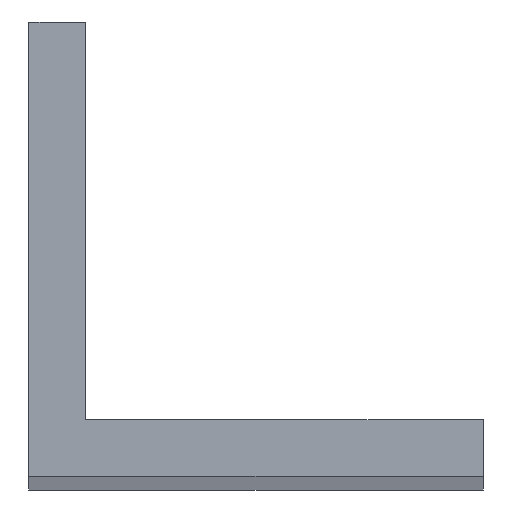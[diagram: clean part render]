
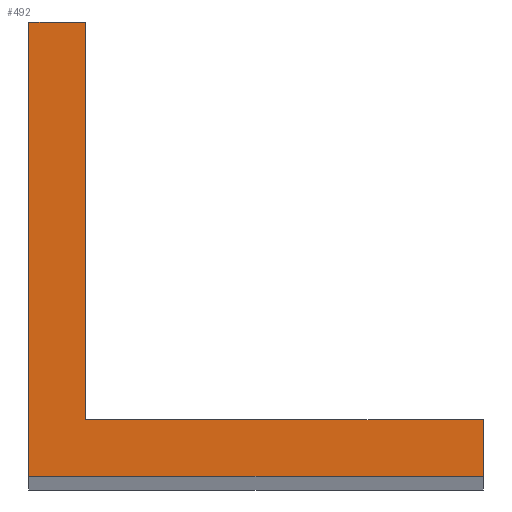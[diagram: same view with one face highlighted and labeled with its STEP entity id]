
A CAD part, top view. The second image highlights one B-rep face of the part: STEP entity #492.
In plain terms, the highlighted planar face has unit normal (0, 0, 1).
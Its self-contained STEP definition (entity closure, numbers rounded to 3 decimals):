
#24 = VERTEX_POINT('',#25);
#25 = CARTESIAN_POINT('',(1743.,0.,3288.));
#32 = PLANE('',#33);
#33 = AXIS2_PLACEMENT_3D('',#34,#35,#36);
#34 = CARTESIAN_POINT('',(1743.,0.,2410.));
#35 = DIRECTION('',(0.,1.,0.));
#36 = DIRECTION('',(1.,0.,0.));
#44 = PLANE('',#45);
#45 = AXIS2_PLACEMENT_3D('',#46,#47,#48);
#46 = CARTESIAN_POINT('',(1743.,50.8,2410.));
#47 = DIRECTION('',(1.,0.,-0.));
#48 = DIRECTION('',(0.,-1.,0.));
#56 = EDGE_CURVE('',#24,#57,#59,.T.);
#57 = VERTEX_POINT('',#58);
#58 = CARTESIAN_POINT('',(1793.8,0.,3288.));
#59 = SURFACE_CURVE('',#60,(#64,#71),.PCURVE_S1.);
#60 = LINE('',#61,#62);
#61 = CARTESIAN_POINT('',(1743.,0.,3288.));
#62 = VECTOR('',#63,1.);
#63 = DIRECTION('',(1.,0.,0.));
#64 = PCURVE('',#32,#65);
#65 = DEFINITIONAL_REPRESENTATION('',(#66),#70);
#66 = LINE('',#67,#68);
#67 = CARTESIAN_POINT('',(0.,-878.));
#68 = VECTOR('',#69,1.);
#69 = DIRECTION('',(1.,0.));
#70 = ( GEOMETRIC_REPRESENTATION_CONTEXT(2) 
PARAMETRIC_REPRESENTATION_CONTEXT() REPRESENTATION_CONTEXT('2D SPACE',''
  ) );
#71 = PCURVE('',#72,#77);
#72 = PLANE('',#73);
#73 = AXIS2_PLACEMENT_3D('',#74,#75,#76);
#74 = CARTESIAN_POINT('',(1758.677,15.677,3288.));
#75 = DIRECTION('',(0.,0.,1.));
#76 = DIRECTION('',(1.,0.,-0.));
#77 = DEFINITIONAL_REPRESENTATION('',(#78),#82);
#78 = LINE('',#79,#80);
#79 = CARTESIAN_POINT('',(-15.677,-15.677));
#80 = VECTOR('',#81,1.);
#81 = DIRECTION('',(1.,0.));
#82 = ( GEOMETRIC_REPRESENTATION_CONTEXT(2) 
PARAMETRIC_REPRESENTATION_CONTEXT() REPRESENTATION_CONTEXT('2D SPACE',''
  ) );
#100 = PLANE('',#101);
#101 = AXIS2_PLACEMENT_3D('',#102,#103,#104);
#102 = CARTESIAN_POINT('',(1793.8,0.,2410.));
#103 = DIRECTION('',(-1.,0.,0.));
#104 = DIRECTION('',(0.,1.,0.));
#142 = EDGE_CURVE('',#57,#143,#145,.T.);
#143 = VERTEX_POINT('',#144);
#144 = CARTESIAN_POINT('',(1793.8,6.35,3288.));
#145 = SURFACE_CURVE('',#146,(#150,#157),.PCURVE_S1.);
#146 = LINE('',#147,#148);
#147 = CARTESIAN_POINT('',(1793.8,0.,3288.));
#148 = VECTOR('',#149,1.);
#149 = DIRECTION('',(0.,1.,0.));
#150 = PCURVE('',#100,#151);
#151 = DEFINITIONAL_REPRESENTATION('',(#152),#156);
#152 = LINE('',#153,#154);
#153 = CARTESIAN_POINT('',(0.,-878.));
#154 = VECTOR('',#155,1.);
#155 = DIRECTION('',(1.,0.));
#156 = ( GEOMETRIC_REPRESENTATION_CONTEXT(2) 
PARAMETRIC_REPRESENTATION_CONTEXT() REPRESENTATION_CONTEXT('2D SPACE',''
  ) );
#157 = PCURVE('',#72,#158);
#158 = DEFINITIONAL_REPRESENTATION('',(#159),#163);
#159 = LINE('',#160,#161);
#160 = CARTESIAN_POINT('',(35.123,-15.677));
#161 = VECTOR('',#162,1.);
#162 = DIRECTION('',(0.,1.));
#163 = ( GEOMETRIC_REPRESENTATION_CONTEXT(2) 
PARAMETRIC_REPRESENTATION_CONTEXT() REPRESENTATION_CONTEXT('2D SPACE',''
  ) );
#181 = PLANE('',#182);
#182 = AXIS2_PLACEMENT_3D('',#183,#184,#185);
#183 = CARTESIAN_POINT('',(1793.8,6.35,2410.));
#184 = DIRECTION('',(0.,-1.,0.));
#185 = DIRECTION('',(-1.,0.,0.));
#218 = EDGE_CURVE('',#143,#219,#221,.T.);
#219 = VERTEX_POINT('',#220);
#220 = CARTESIAN_POINT('',(1749.35,6.35,3288.));
#221 = SURFACE_CURVE('',#222,(#226,#233),.PCURVE_S1.);
#222 = LINE('',#223,#224);
#223 = CARTESIAN_POINT('',(1793.8,6.35,3288.));
#224 = VECTOR('',#225,1.);
#225 = DIRECTION('',(-1.,0.,0.));
#226 = PCURVE('',#181,#227);
#227 = DEFINITIONAL_REPRESENTATION('',(#228),#232);
#228 = LINE('',#229,#230);
#229 = CARTESIAN_POINT('',(0.,-878.));
#230 = VECTOR('',#231,1.);
#231 = DIRECTION('',(1.,0.));
#232 = ( GEOMETRIC_REPRESENTATION_CONTEXT(2) 
PARAMETRIC_REPRESENTATION_CONTEXT() REPRESENTATION_CONTEXT('2D SPACE',''
  ) );
#233 = PCURVE('',#72,#234);
#234 = DEFINITIONAL_REPRESENTATION('',(#235),#239);
#235 = LINE('',#236,#237);
#236 = CARTESIAN_POINT('',(35.123,-9.327));
#237 = VECTOR('',#238,1.);
#238 = DIRECTION('',(-1.,0.));
#239 = ( GEOMETRIC_REPRESENTATION_CONTEXT(2) 
PARAMETRIC_REPRESENTATION_CONTEXT() REPRESENTATION_CONTEXT('2D SPACE',''
  ) );
#257 = PLANE('',#258);
#258 = AXIS2_PLACEMENT_3D('',#259,#260,#261);
#259 = CARTESIAN_POINT('',(1749.35,6.35,2410.));
#260 = DIRECTION('',(-1.,0.,0.));
#261 = DIRECTION('',(0.,1.,0.));
#294 = EDGE_CURVE('',#219,#295,#297,.T.);
#295 = VERTEX_POINT('',#296);
#296 = CARTESIAN_POINT('',(1749.35,50.8,3288.));
#297 = SURFACE_CURVE('',#298,(#302,#309),.PCURVE_S1.);
#298 = LINE('',#299,#300);
#299 = CARTESIAN_POINT('',(1749.35,6.35,3288.));
#300 = VECTOR('',#301,1.);
#301 = DIRECTION('',(0.,1.,0.));
#302 = PCURVE('',#257,#303);
#303 = DEFINITIONAL_REPRESENTATION('',(#304),#308);
#304 = LINE('',#305,#306);
#305 = CARTESIAN_POINT('',(0.,-878.));
#306 = VECTOR('',#307,1.);
#307 = DIRECTION('',(1.,0.));
#308 = ( GEOMETRIC_REPRESENTATION_CONTEXT(2) 
PARAMETRIC_REPRESENTATION_CONTEXT() REPRESENTATION_CONTEXT('2D SPACE',''
  ) );
#309 = PCURVE('',#72,#310);
#310 = DEFINITIONAL_REPRESENTATION('',(#311),#315);
#311 = LINE('',#312,#313);
#312 = CARTESIAN_POINT('',(-9.327,-9.327));
#313 = VECTOR('',#314,1.);
#314 = DIRECTION('',(0.,1.));
#315 = ( GEOMETRIC_REPRESENTATION_CONTEXT(2) 
PARAMETRIC_REPRESENTATION_CONTEXT() REPRESENTATION_CONTEXT('2D SPACE',''
  ) );
#333 = PLANE('',#334);
#334 = AXIS2_PLACEMENT_3D('',#335,#336,#337);
#335 = CARTESIAN_POINT('',(1749.35,50.8,2410.));
#336 = DIRECTION('',(0.,-1.,0.));
#337 = DIRECTION('',(-1.,0.,0.));
#370 = EDGE_CURVE('',#295,#371,#373,.T.);
#371 = VERTEX_POINT('',#372);
#372 = CARTESIAN_POINT('',(1743.,50.8,3288.));
#373 = SURFACE_CURVE('',#374,(#378,#385),.PCURVE_S1.);
#374 = LINE('',#375,#376);
#375 = CARTESIAN_POINT('',(1749.35,50.8,3288.));
#376 = VECTOR('',#377,1.);
#377 = DIRECTION('',(-1.,0.,0.));
#378 = PCURVE('',#333,#379);
#379 = DEFINITIONAL_REPRESENTATION('',(#380),#384);
#380 = LINE('',#381,#382);
#381 = CARTESIAN_POINT('',(0.,-878.));
#382 = VECTOR('',#383,1.);
#383 = DIRECTION('',(1.,0.));
#384 = ( GEOMETRIC_REPRESENTATION_CONTEXT(2) 
PARAMETRIC_REPRESENTATION_CONTEXT() REPRESENTATION_CONTEXT('2D SPACE',''
  ) );
#385 = PCURVE('',#72,#386);
#386 = DEFINITIONAL_REPRESENTATION('',(#387),#391);
#387 = LINE('',#388,#389);
#388 = CARTESIAN_POINT('',(-9.327,35.123));
#389 = VECTOR('',#390,1.);
#390 = DIRECTION('',(-1.,0.));
#391 = ( GEOMETRIC_REPRESENTATION_CONTEXT(2) 
PARAMETRIC_REPRESENTATION_CONTEXT() REPRESENTATION_CONTEXT('2D SPACE',''
  ) );
#441 = EDGE_CURVE('',#371,#24,#442,.T.);
#442 = SURFACE_CURVE('',#443,(#447,#454),.PCURVE_S1.);
#443 = LINE('',#444,#445);
#444 = CARTESIAN_POINT('',(1743.,50.8,3288.));
#445 = VECTOR('',#446,1.);
#446 = DIRECTION('',(0.,-1.,0.));
#447 = PCURVE('',#44,#448);
#448 = DEFINITIONAL_REPRESENTATION('',(#449),#453);
#449 = LINE('',#450,#451);
#450 = CARTESIAN_POINT('',(0.,-878.));
#451 = VECTOR('',#452,1.);
#452 = DIRECTION('',(1.,0.));
#453 = ( GEOMETRIC_REPRESENTATION_CONTEXT(2) 
PARAMETRIC_REPRESENTATION_CONTEXT() REPRESENTATION_CONTEXT('2D SPACE',''
  ) );
#454 = PCURVE('',#72,#455);
#455 = DEFINITIONAL_REPRESENTATION('',(#456),#460);
#456 = LINE('',#457,#458);
#457 = CARTESIAN_POINT('',(-15.677,35.123));
#458 = VECTOR('',#459,1.);
#459 = DIRECTION('',(0.,-1.));
#460 = ( GEOMETRIC_REPRESENTATION_CONTEXT(2) 
PARAMETRIC_REPRESENTATION_CONTEXT() REPRESENTATION_CONTEXT('2D SPACE',''
  ) );
#492 = ADVANCED_FACE('',(#493),#72,.T.);
#493 = FACE_BOUND('',#494,.T.);
#494 = EDGE_LOOP('',(#495,#496,#497,#498,#499,#500));
#495 = ORIENTED_EDGE('',*,*,#56,.T.);
#496 = ORIENTED_EDGE('',*,*,#142,.T.);
#497 = ORIENTED_EDGE('',*,*,#218,.T.);
#498 = ORIENTED_EDGE('',*,*,#294,.T.);
#499 = ORIENTED_EDGE('',*,*,#370,.T.);
#500 = ORIENTED_EDGE('',*,*,#441,.T.);
